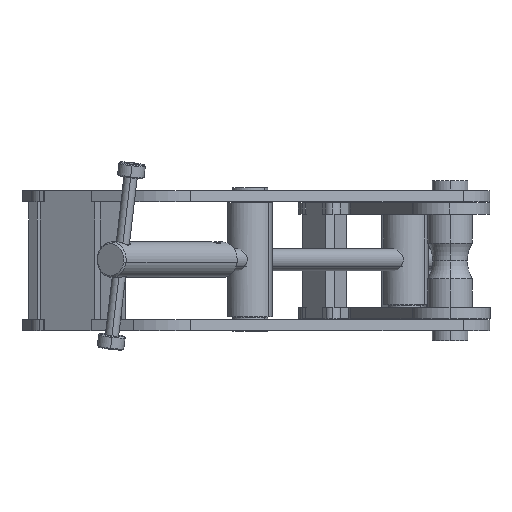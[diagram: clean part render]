
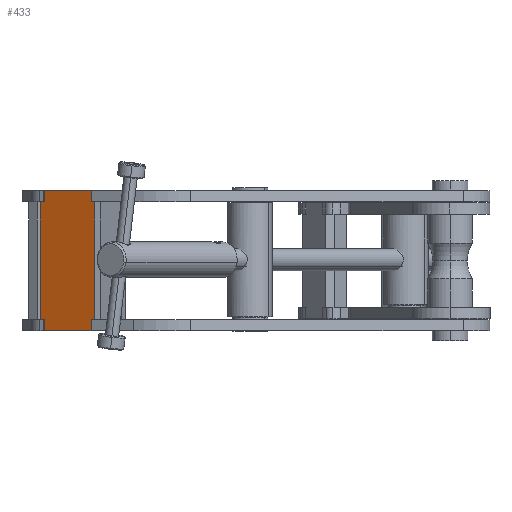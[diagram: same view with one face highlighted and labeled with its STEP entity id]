
A CAD part, left-side view. The second image highlights one B-rep face of the part: STEP entity #433.
In plain terms, the highlighted planar face has unit normal (-0.88, 0.474, 0) as drawn and (0, 0, 1) by its records, which use the part's own axes.
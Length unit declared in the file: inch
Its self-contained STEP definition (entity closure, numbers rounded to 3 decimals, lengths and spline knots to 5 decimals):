
#178 = DIRECTION ( 'NONE',  ( -1., 0., 0. ) ) ;
#433 = ADVANCED_FACE ( 'NONE', ( #3457 ), #13052, .F. ) ;
#566 = DIRECTION ( 'NONE',  ( 1., 0., 0. ) ) ;
#714 = EDGE_CURVE ( 'NONE', #5991, #6436, #16627, .T. ) ;
#1086 = CARTESIAN_POINT ( 'NONE',  ( 0.125, 3.315, 0.3125 ) ) ;
#1288 = CARTESIAN_POINT ( 'NONE',  ( 1.625, 3.315, 0.3125 ) ) ;
#1552 = LINE ( 'NONE', #9951, #7915 ) ;
#1560 = VECTOR ( 'NONE', #6524, 39.37008 ) ;
#1597 = CARTESIAN_POINT ( 'NONE',  ( 0., 0., 0.3125 ) ) ;
#1651 = VECTOR ( 'NONE', #12739, 39.37008 ) ;
#1702 = CARTESIAN_POINT ( 'NONE',  ( 0.125, 0., 0.3125 ) ) ;
#1815 = DIRECTION ( 'NONE',  ( 0., 0., -1. ) ) ;
#1894 = VECTOR ( 'NONE', #3051, 39.37008 ) ;
#2077 = CARTESIAN_POINT ( 'NONE',  ( 0.125, 0., 0.3125 ) ) ;
#2197 = LINE ( 'NONE', #8844, #19791 ) ;
#2253 = ORIENTED_EDGE ( 'NONE', *, *, #13780, .T. ) ;
#2274 = CARTESIAN_POINT ( 'NONE',  ( 0.125, -0.3125, 0.3125 ) ) ;
#2432 = EDGE_CURVE ( 'NONE', #5425, #8484, #10200, .T. ) ;
#2575 = EDGE_CURVE ( 'NONE', #8484, #20528, #8450, .T. ) ;
#2758 = LINE ( 'NONE', #4845, #9269 ) ;
#3051 = DIRECTION ( 'NONE',  ( 0., 1., 0. ) ) ;
#3224 = DIRECTION ( 'NONE',  ( 0., -1., 0. ) ) ;
#3457 = FACE_OUTER_BOUND ( 'NONE', #11879, .T. ) ;
#3608 = VERTEX_POINT ( 'NONE', #20742 ) ;
#3917 = VERTEX_POINT ( 'NONE', #21063 ) ;
#4474 = AXIS2_PLACEMENT_3D ( 'NONE', #1597, #1815, #178 ) ;
#4664 = CARTESIAN_POINT ( 'NONE',  ( 1.625, -0.3125, 0.3125 ) ) ;
#4667 = LINE ( 'NONE', #1288, #21366 ) ;
#4845 = CARTESIAN_POINT ( 'NONE',  ( 0.125, 3.6275, 0.3125 ) ) ;
#5425 = VERTEX_POINT ( 'NONE', #16220 ) ;
#5447 = ORIENTED_EDGE ( 'NONE', *, *, #11889, .T. ) ;
#5674 = EDGE_CURVE ( 'NONE', #20936, #15757, #14290, .T. ) ;
#5991 = VERTEX_POINT ( 'NONE', #6733 ) ;
#6175 = EDGE_CURVE ( 'NONE', #3917, #5425, #15408, .T. ) ;
#6436 = VERTEX_POINT ( 'NONE', #14431 ) ;
#6524 = DIRECTION ( 'NONE',  ( 0., -1., 0. ) ) ;
#6733 = CARTESIAN_POINT ( 'NONE',  ( 1.625, -0.3125, 0.3125 ) ) ;
#7053 = ORIENTED_EDGE ( 'NONE', *, *, #6175, .T. ) ;
#7271 = VECTOR ( 'NONE', #3224, 39.37008 ) ;
#7915 = VECTOR ( 'NONE', #18530, 39.37008 ) ;
#8450 = LINE ( 'NONE', #1702, #7271 ) ;
#8484 = VERTEX_POINT ( 'NONE', #2077 ) ;
#8844 = CARTESIAN_POINT ( 'NONE',  ( 1.625, 0., 0.3125 ) ) ;
#8854 = EDGE_CURVE ( 'NONE', #10549, #20936, #4667, .T. ) ;
#9269 = VECTOR ( 'NONE', #16044, 39.37008 ) ;
#9916 = EDGE_CURVE ( 'NONE', #15757, #11792, #2758, .T. ) ;
#9951 = CARTESIAN_POINT ( 'NONE',  ( 1.75, 0., 0.3125 ) ) ;
#10200 = LINE ( 'NONE', #11939, #13191 ) ;
#10549 = VERTEX_POINT ( 'NONE', #13176 ) ;
#10833 = DIRECTION ( 'NONE',  ( -1., 0., 0. ) ) ;
#11045 = LINE ( 'NONE', #20841, #14171 ) ;
#11310 = DIRECTION ( 'NONE',  ( 0., 1., 0. ) ) ;
#11544 = CARTESIAN_POINT ( 'NONE',  ( 0., 0., 0.3125 ) ) ;
#11792 = VERTEX_POINT ( 'NONE', #21046 ) ;
#11861 = VERTEX_POINT ( 'NONE', #14418 ) ;
#11879 = EDGE_LOOP ( 'NONE', ( #7053, #19271, #13194, #2253, #14289, #18785, #12211, #13749, #20206, #19732, #12357, #5447 ) ) ;
#11889 = EDGE_CURVE ( 'NONE', #11861, #3917, #11045, .T. ) ;
#11939 = CARTESIAN_POINT ( 'NONE',  ( 0., 0., 0.3125 ) ) ;
#12211 = ORIENTED_EDGE ( 'NONE', *, *, #18098, .T. ) ;
#12357 = ORIENTED_EDGE ( 'NONE', *, *, #19079, .T. ) ;
#12739 = DIRECTION ( 'NONE',  ( 0., -1., 0. ) ) ;
#13052 = PLANE ( 'NONE',  #4474 ) ;
#13167 = CARTESIAN_POINT ( 'NONE',  ( 1.625, 0., 0.3125 ) ) ;
#13176 = CARTESIAN_POINT ( 'NONE',  ( 1.75, 3.315, 0.3125 ) ) ;
#13191 = VECTOR ( 'NONE', #16930, 39.37008 ) ;
#13194 = ORIENTED_EDGE ( 'NONE', *, *, #2575, .T. ) ;
#13749 = ORIENTED_EDGE ( 'NONE', *, *, #8854, .T. ) ;
#13780 = EDGE_CURVE ( 'NONE', #20528, #5991, #19363, .T. ) ;
#13796 = VECTOR ( 'NONE', #16193, 39.37008 ) ;
#14171 = VECTOR ( 'NONE', #10833, 39.37008 ) ;
#14289 = ORIENTED_EDGE ( 'NONE', *, *, #714, .T. ) ;
#14290 = LINE ( 'NONE', #17965, #1894 ) ;
#14418 = CARTESIAN_POINT ( 'NONE',  ( 0.125, 3.315, 0.3125 ) ) ;
#14431 = CARTESIAN_POINT ( 'NONE',  ( 1.625, 0., 0.3125 ) ) ;
#14545 = VECTOR ( 'NONE', #11310, 39.37008 ) ;
#15276 = CARTESIAN_POINT ( 'NONE',  ( 1.625, 3.315, 0.3125 ) ) ;
#15408 = LINE ( 'NONE', #11544, #1560 ) ;
#15757 = VERTEX_POINT ( 'NONE', #17430 ) ;
#16044 = DIRECTION ( 'NONE',  ( -1., 0., 0. ) ) ;
#16193 = DIRECTION ( 'NONE',  ( 1., 0., 0. ) ) ;
#16220 = CARTESIAN_POINT ( 'NONE',  ( 0., 0., 0.3125 ) ) ;
#16627 = LINE ( 'NONE', #13167, #14545 ) ;
#16930 = DIRECTION ( 'NONE',  ( 1., 0., 0. ) ) ;
#17430 = CARTESIAN_POINT ( 'NONE',  ( 1.625, 3.6275, 0.3125 ) ) ;
#17951 = LINE ( 'NONE', #1086, #1651 ) ;
#17965 = CARTESIAN_POINT ( 'NONE',  ( 1.625, 3.315, 0.3125 ) ) ;
#18098 = EDGE_CURVE ( 'NONE', #3608, #10549, #1552, .T. ) ;
#18530 = DIRECTION ( 'NONE',  ( 0., 1., 0. ) ) ;
#18785 = ORIENTED_EDGE ( 'NONE', *, *, #21071, .T. ) ;
#19079 = EDGE_CURVE ( 'NONE', #11792, #11861, #17951, .T. ) ;
#19271 = ORIENTED_EDGE ( 'NONE', *, *, #2432, .T. ) ;
#19363 = LINE ( 'NONE', #4664, #13796 ) ;
#19365 = DIRECTION ( 'NONE',  ( -1., 0., 0. ) ) ;
#19732 = ORIENTED_EDGE ( 'NONE', *, *, #9916, .T. ) ;
#19791 = VECTOR ( 'NONE', #566, 39.37008 ) ;
#20206 = ORIENTED_EDGE ( 'NONE', *, *, #5674, .T. ) ;
#20528 = VERTEX_POINT ( 'NONE', #2274 ) ;
#20742 = CARTESIAN_POINT ( 'NONE',  ( 1.75, 0., 0.3125 ) ) ;
#20841 = CARTESIAN_POINT ( 'NONE',  ( 0., 3.315, 0.3125 ) ) ;
#20936 = VERTEX_POINT ( 'NONE', #15276 ) ;
#21046 = CARTESIAN_POINT ( 'NONE',  ( 0.125, 3.6275, 0.3125 ) ) ;
#21063 = CARTESIAN_POINT ( 'NONE',  ( 0., 3.315, 0.3125 ) ) ;
#21071 = EDGE_CURVE ( 'NONE', #6436, #3608, #2197, .T. ) ;
#21366 = VECTOR ( 'NONE', #19365, 39.37008 ) ;
